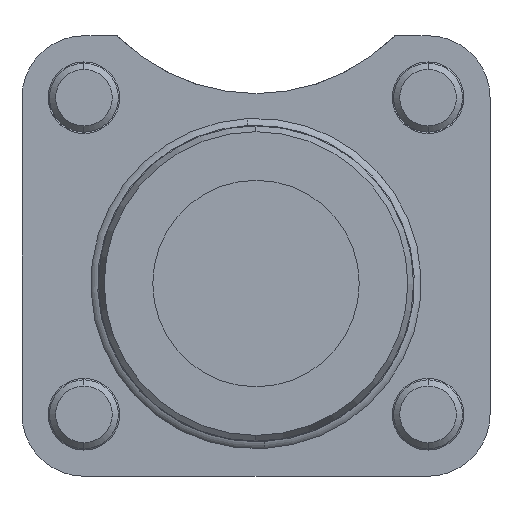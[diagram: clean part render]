
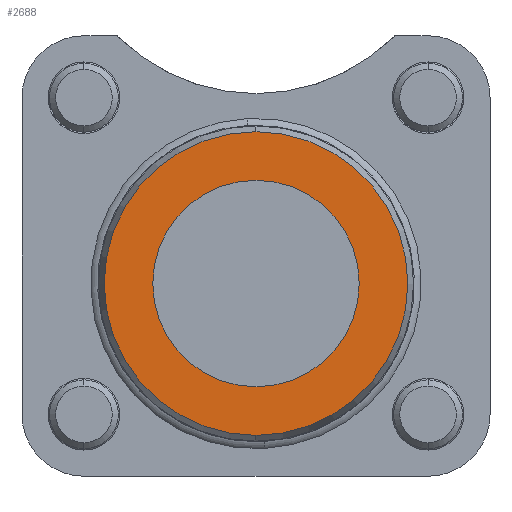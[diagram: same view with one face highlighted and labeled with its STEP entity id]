
A CAD part, front view. The second image highlights one B-rep face of the part: STEP entity #2688.
In plain terms, the highlighted planar face has unit normal (0, -1, 0).
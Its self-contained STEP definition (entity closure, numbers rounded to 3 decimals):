
#731 = EDGE_LOOP ( 'NONE', ( #4941, #4940 ) ) ;
#795 = CARTESIAN_POINT ( 'NONE',  ( 17., 0., -6.97 ) ) ;
#812 = CARTESIAN_POINT ( 'NONE',  ( 17., 0., -10.5 ) ) ;
#1460 = CARTESIAN_POINT ( 'NONE',  ( 17., 0., -29.03 ) ) ;
#1487 = CARTESIAN_POINT ( 'NONE',  ( 17., 0., -25.5 ) ) ;
#1716 = DIRECTION ( 'NONE',  ( 0., 0., -1. ) ) ;
#1717 = DIRECTION ( 'NONE',  ( 0., -1., 0. ) ) ;
#1724 = PLANE ( 'NONE',  #3219 ) ;
#1728 = CARTESIAN_POINT ( 'NONE',  ( 0., 0., -32. ) ) ;
#1854 = DIRECTION ( 'NONE',  ( 0., 0., -1. ) ) ;
#1875 = DIRECTION ( 'NONE',  ( 0., -1., 0. ) ) ;
#1995 = DIRECTION ( 'NONE',  ( 0., 0., -1. ) ) ;
#2009 = DIRECTION ( 'NONE',  ( 0., -1., 0. ) ) ;
#2110 = CARTESIAN_POINT ( 'NONE',  ( 17., 0., -18. ) ) ;
#2137 = CARTESIAN_POINT ( 'NONE',  ( 17., 0., -18. ) ) ;
#2229 = FACE_BOUND ( 'NONE', #731, .T. ) ;
#2230 = FACE_OUTER_BOUND ( 'NONE', #4446, .T. ) ;
#2281 = CIRCLE ( 'NONE', #3301, 11.03 ) ;
#2362 = CIRCLE ( 'NONE', #3293, 7.5 ) ;
#2688 = ADVANCED_FACE ( 'NONE', ( #2230, #2229 ), #1724, .T. ) ;
#2869 = EDGE_CURVE ( 'NONE', #5694, #5873, #2362, .T. ) ;
#2882 = EDGE_CURVE ( 'NONE', #5812, #5537, #2281, .T. ) ;
#3219 = AXIS2_PLACEMENT_3D ( 'NONE', #1728, #1717, #1716 ) ;
#3293 = AXIS2_PLACEMENT_3D ( 'NONE', #3827, #3803, #3800 ) ;
#3301 = AXIS2_PLACEMENT_3D ( 'NONE', #3708, #3655, #3650 ) ;
#3528 = EDGE_CURVE ( 'NONE', #5537, #5812, #7436, .T. ) ;
#3551 = EDGE_CURVE ( 'NONE', #5873, #5694, #7465, .T. ) ;
#3650 = DIRECTION ( 'NONE',  ( 0., 0., -1. ) ) ;
#3655 = DIRECTION ( 'NONE',  ( 0., -1., 0. ) ) ;
#3708 = CARTESIAN_POINT ( 'NONE',  ( 17., 0., -18. ) ) ;
#3800 = DIRECTION ( 'NONE',  ( 0., 0., -1. ) ) ;
#3803 = DIRECTION ( 'NONE',  ( 0., -1., 0. ) ) ;
#3827 = CARTESIAN_POINT ( 'NONE',  ( 17., 0., -18. ) ) ;
#4446 = EDGE_LOOP ( 'NONE', ( #4943, #4942 ) ) ;
#4940 = ORIENTED_EDGE ( 'NONE', *, *, #3551, .F. ) ;
#4941 = ORIENTED_EDGE ( 'NONE', *, *, #2869, .F. ) ;
#4942 = ORIENTED_EDGE ( 'NONE', *, *, #3528, .T. ) ;
#4943 = ORIENTED_EDGE ( 'NONE', *, *, #2882, .T. ) ;
#5537 = VERTEX_POINT ( 'NONE', #1460 ) ;
#5694 = VERTEX_POINT ( 'NONE', #1487 ) ;
#5812 = VERTEX_POINT ( 'NONE', #795 ) ;
#5873 = VERTEX_POINT ( 'NONE', #812 ) ;
#6509 = AXIS2_PLACEMENT_3D ( 'NONE', #2110, #2009, #1995 ) ;
#6524 = AXIS2_PLACEMENT_3D ( 'NONE', #2137, #1875, #1854 ) ;
#7436 = CIRCLE ( 'NONE', #6509, 11.03 ) ;
#7465 = CIRCLE ( 'NONE', #6524, 7.5 ) ;
